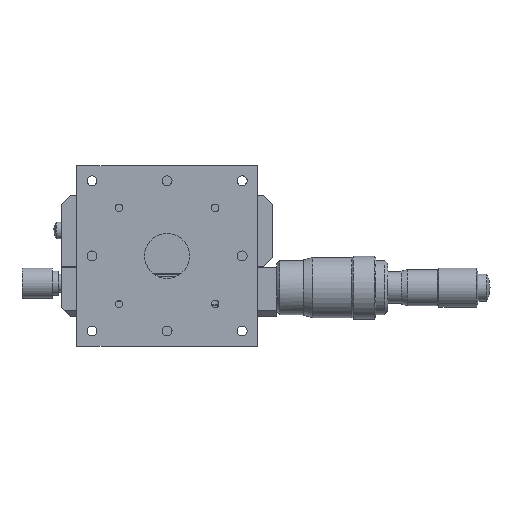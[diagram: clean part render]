
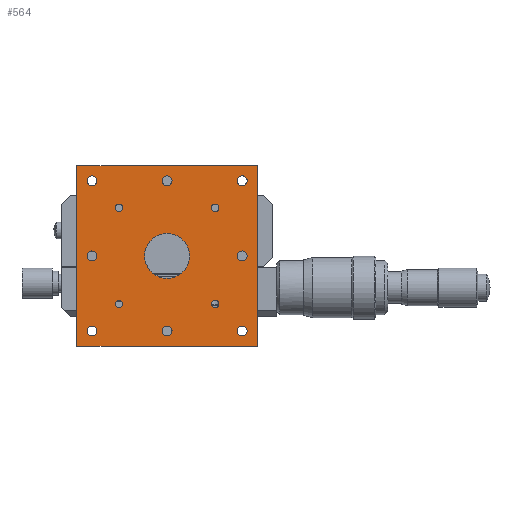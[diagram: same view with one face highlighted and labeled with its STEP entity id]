
A CAD part, top view. The second image highlights one B-rep face of the part: STEP entity #564.
In plain terms, the highlighted planar face has unit normal (0, 0, 1).
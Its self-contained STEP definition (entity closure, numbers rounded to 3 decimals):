
#564 = ADVANCED_FACE( '', ( #1199, #1200, #1201, #1202, #1203, #1204, #1205, #1206, #1207, #1208, #1209, #1210, #1211, #1212 ), #1213, .T. );
#1199 = FACE_BOUND( '', #1852, .T. );
#1200 = FACE_BOUND( '', #1853, .T. );
#1201 = FACE_BOUND( '', #1854, .T. );
#1202 = FACE_BOUND( '', #1855, .T. );
#1203 = FACE_BOUND( '', #1856, .T. );
#1204 = FACE_BOUND( '', #1857, .T. );
#1205 = FACE_BOUND( '', #1858, .T. );
#1206 = FACE_BOUND( '', #1859, .T. );
#1207 = FACE_BOUND( '', #1860, .T. );
#1208 = FACE_BOUND( '', #1861, .T. );
#1209 = FACE_BOUND( '', #1862, .T. );
#1210 = FACE_BOUND( '', #1863, .T. );
#1211 = FACE_OUTER_BOUND( '', #1864, .T. );
#1212 = FACE_BOUND( '', #1865, .T. );
#1213 = PLANE( '', #1866 );
#1852 = EDGE_LOOP( '', ( #3239 ) );
#1853 = EDGE_LOOP( '', ( #3240 ) );
#1854 = EDGE_LOOP( '', ( #3241 ) );
#1855 = EDGE_LOOP( '', ( #3242 ) );
#1856 = EDGE_LOOP( '', ( #3243 ) );
#1857 = EDGE_LOOP( '', ( #3244 ) );
#1858 = EDGE_LOOP( '', ( #3245 ) );
#1859 = EDGE_LOOP( '', ( #3246 ) );
#1860 = EDGE_LOOP( '', ( #3247 ) );
#1861 = EDGE_LOOP( '', ( #3248 ) );
#1862 = EDGE_LOOP( '', ( #3249 ) );
#1863 = EDGE_LOOP( '', ( #3250 ) );
#1864 = EDGE_LOOP( '', ( #3251, #3252, #3253, #3254 ) );
#1865 = EDGE_LOOP( '', ( #3255 ) );
#1866 = AXIS2_PLACEMENT_3D( '', #3256, #3257, #3258 );
#3239 = ORIENTED_EDGE( '', *, *, #3538, .F. );
#3240 = ORIENTED_EDGE( '', *, *, #3811, .F. );
#3241 = ORIENTED_EDGE( '', *, *, #3692, .F. );
#3242 = ORIENTED_EDGE( '', *, *, #3788, .F. );
#3243 = ORIENTED_EDGE( '', *, *, #3727, .F. );
#3244 = ORIENTED_EDGE( '', *, *, #3770, .F. );
#3245 = ORIENTED_EDGE( '', *, *, #3684, .F. );
#3246 = ORIENTED_EDGE( '', *, *, #3806, .F. );
#3247 = ORIENTED_EDGE( '', *, *, #3571, .F. );
#3248 = ORIENTED_EDGE( '', *, *, #3346, .F. );
#3249 = ORIENTED_EDGE( '', *, *, #3635, .F. );
#3250 = ORIENTED_EDGE( '', *, *, #3380, .F. );
#3251 = ORIENTED_EDGE( '', *, *, #3613, .T. );
#3252 = ORIENTED_EDGE( '', *, *, #3695, .F. );
#3253 = ORIENTED_EDGE( '', *, *, #3701, .F. );
#3254 = ORIENTED_EDGE( '', *, *, #3576, .F. );
#3255 = ORIENTED_EDGE( '', *, *, #3762, .T. );
#3256 = CARTESIAN_POINT( '', ( 0., 0., 40. ) );
#3257 = DIRECTION( '', ( 0., 0., 1. ) );
#3258 = DIRECTION( '', ( 1., 0., 0. ) );
#3346 = EDGE_CURVE( '', #3915, #3915, #3916, .T. );
#3380 = EDGE_CURVE( '', #3978, #3978, #3979, .T. );
#3538 = EDGE_CURVE( '', #4227, #4227, #4228, .T. );
#3571 = EDGE_CURVE( '', #4275, #4275, #4276, .T. );
#3576 = EDGE_CURVE( '', #4282, #4284, #4285, .T. );
#3613 = EDGE_CURVE( '', #4282, #4331, #4333, .T. );
#3635 = EDGE_CURVE( '', #4368, #4368, #4369, .T. );
#3684 = EDGE_CURVE( '', #4437, #4437, #4438, .T. );
#3692 = EDGE_CURVE( '', #4449, #4449, #4450, .T. );
#3695 = EDGE_CURVE( '', #4452, #4331, #4454, .T. );
#3701 = EDGE_CURVE( '', #4284, #4452, #4462, .T. );
#3727 = EDGE_CURVE( '', #4494, #4494, #4495, .T. );
#3762 = EDGE_CURVE( '', #4537, #4537, #4538, .T. );
#3770 = EDGE_CURVE( '', #4547, #4547, #4548, .T. );
#3788 = EDGE_CURVE( '', #4568, #4568, #4569, .T. );
#3806 = EDGE_CURVE( '', #4587, #4587, #4588, .T. );
#3811 = EDGE_CURVE( '', #4593, #4593, #4594, .T. );
#3915 = VERTEX_POINT( '', #4734 );
#3916 = CIRCLE( '', #4735, 1.65 );
#3978 = VERTEX_POINT( '', #4814 );
#3979 = CIRCLE( '', #4815, 1.65 );
#4227 = VERTEX_POINT( '', #5146 );
#4228 = CIRCLE( '', #5147, 1.25 );
#4275 = VERTEX_POINT( '', #5206 );
#4276 = CIRCLE( '', #5207, 1.65 );
#4282 = VERTEX_POINT( '', #5213 );
#4284 = VERTEX_POINT( '', #5216 );
#4285 = LINE( '', #5217, #5218 );
#4331 = VERTEX_POINT( '', #5283 );
#4333 = LINE( '', #5286, #5287 );
#4368 = VERTEX_POINT( '', #5332 );
#4369 = CIRCLE( '', #5333, 1.65 );
#4437 = VERTEX_POINT( '', #5423 );
#4438 = CIRCLE( '', #5424, 1.65 );
#4449 = VERTEX_POINT( '', #5437 );
#4450 = CIRCLE( '', #5438, 1.25 );
#4452 = VERTEX_POINT( '', #5440 );
#4454 = LINE( '', #5443, #5444 );
#4462 = LINE( '', #5452, #5453 );
#4494 = VERTEX_POINT( '', #5499 );
#4495 = CIRCLE( '', #5500, 1.65 );
#4537 = VERTEX_POINT( '', #5554 );
#4538 = CIRCLE( '', #5555, 7.5 );
#4547 = VERTEX_POINT( '', #5564 );
#4548 = CIRCLE( '', #5565, 1.65 );
#4568 = VERTEX_POINT( '', #5587 );
#4569 = CIRCLE( '', #5588, 1.25 );
#4587 = VERTEX_POINT( '', #5609 );
#4588 = CIRCLE( '', #5610, 1.65 );
#4593 = VERTEX_POINT( '', #5615 );
#4594 = CIRCLE( '', #5616, 1.25 );
#4734 = CARTESIAN_POINT( '', ( 25., -26.65, 40. ) );
#4735 = AXIS2_PLACEMENT_3D( '', #5688, #5689, #5690 );
#4814 = CARTESIAN_POINT( '', ( -25., -26.65, 40. ) );
#4815 = AXIS2_PLACEMENT_3D( '', #5744, #5745, #5746 );
#5146 = CARTESIAN_POINT( '', ( -16., 14.75, 40. ) );
#5147 = AXIS2_PLACEMENT_3D( '', #5932, #5933, #5934 );
#5206 = CARTESIAN_POINT( '', ( 25., -1.65, 40. ) );
#5207 = AXIS2_PLACEMENT_3D( '', #5974, #5975, #5976 );
#5213 = CARTESIAN_POINT( '', ( 30., 30., 40. ) );
#5216 = CARTESIAN_POINT( '', ( 30., -30., 40. ) );
#5217 = CARTESIAN_POINT( '', ( 30., 0., 40. ) );
#5218 = VECTOR( '', #5981, 1000. );
#5283 = CARTESIAN_POINT( '', ( -30., 30., 40. ) );
#5286 = CARTESIAN_POINT( '', ( 0., 30., 40. ) );
#5287 = VECTOR( '', #6011, 1000. );
#5332 = CARTESIAN_POINT( '', ( 0., -26.65, 40. ) );
#5333 = AXIS2_PLACEMENT_3D( '', #6040, #6041, #6042 );
#5423 = CARTESIAN_POINT( '', ( 0., 23.35, 40. ) );
#5424 = AXIS2_PLACEMENT_3D( '', #6089, #6090, #6091 );
#5437 = CARTESIAN_POINT( '', ( 16., -17.25, 40. ) );
#5438 = AXIS2_PLACEMENT_3D( '', #6103, #6104, #6105 );
#5440 = CARTESIAN_POINT( '', ( -30., -30., 40. ) );
#5443 = CARTESIAN_POINT( '', ( -30., 0., 40. ) );
#5444 = VECTOR( '', #6107, 1000. );
#5452 = CARTESIAN_POINT( '', ( 0., -30., 40. ) );
#5453 = VECTOR( '', #6114, 1000. );
#5499 = CARTESIAN_POINT( '', ( -25., -1.65, 40. ) );
#5500 = AXIS2_PLACEMENT_3D( '', #6132, #6133, #6134 );
#5554 = CARTESIAN_POINT( '', ( 0., 7.5, 40. ) );
#5555 = AXIS2_PLACEMENT_3D( '', #6159, #6160, #6161 );
#5564 = CARTESIAN_POINT( '', ( -25., 23.35, 40. ) );
#5565 = AXIS2_PLACEMENT_3D( '', #6168, #6169, #6170 );
#5587 = CARTESIAN_POINT( '', ( -16., -17.25, 40. ) );
#5588 = AXIS2_PLACEMENT_3D( '', #6182, #6183, #6184 );
#5609 = CARTESIAN_POINT( '', ( 25., 23.35, 40. ) );
#5610 = AXIS2_PLACEMENT_3D( '', #6194, #6195, #6196 );
#5615 = CARTESIAN_POINT( '', ( 16., 14.75, 40. ) );
#5616 = AXIS2_PLACEMENT_3D( '', #6197, #6198, #6199 );
#5688 = CARTESIAN_POINT( '', ( 25., -25., 40. ) );
#5689 = DIRECTION( '', ( 0., 0., 1. ) );
#5690 = DIRECTION( '', ( 0., -1., 0. ) );
#5744 = CARTESIAN_POINT( '', ( -25., -25., 40. ) );
#5745 = DIRECTION( '', ( 0., 0., 1. ) );
#5746 = DIRECTION( '', ( 0., -1., 0. ) );
#5932 = CARTESIAN_POINT( '', ( -16., 16., 40. ) );
#5933 = DIRECTION( '', ( 0., 0., 1. ) );
#5934 = DIRECTION( '', ( 0., -1., 0. ) );
#5974 = CARTESIAN_POINT( '', ( 25., 0., 40. ) );
#5975 = DIRECTION( '', ( 0., 0., 1. ) );
#5976 = DIRECTION( '', ( 0., -1., 0. ) );
#5981 = DIRECTION( '', ( 0., -1., 0. ) );
#6011 = DIRECTION( '', ( -1., 0., 0. ) );
#6040 = CARTESIAN_POINT( '', ( 0., -25., 40. ) );
#6041 = DIRECTION( '', ( 0., 0., 1. ) );
#6042 = DIRECTION( '', ( 0., -1., 0. ) );
#6089 = CARTESIAN_POINT( '', ( 0., 25., 40. ) );
#6090 = DIRECTION( '', ( 0., 0., 1. ) );
#6091 = DIRECTION( '', ( 0., -1., 0. ) );
#6103 = CARTESIAN_POINT( '', ( 16., -16., 40. ) );
#6104 = DIRECTION( '', ( 0., 0., 1. ) );
#6105 = DIRECTION( '', ( 0., -1., 0. ) );
#6107 = DIRECTION( '', ( 0., 1., 0. ) );
#6114 = DIRECTION( '', ( -1., 0., 0. ) );
#6132 = CARTESIAN_POINT( '', ( -25., 0., 40. ) );
#6133 = DIRECTION( '', ( 0., 0., 1. ) );
#6134 = DIRECTION( '', ( 0., -1., 0. ) );
#6159 = CARTESIAN_POINT( '', ( 0., 0., 40. ) );
#6160 = DIRECTION( '', ( 0., 0., -1. ) );
#6161 = DIRECTION( '', ( 0., 1., 0. ) );
#6168 = CARTESIAN_POINT( '', ( -25., 25., 40. ) );
#6169 = DIRECTION( '', ( 0., 0., 1. ) );
#6170 = DIRECTION( '', ( 0., -1., 0. ) );
#6182 = CARTESIAN_POINT( '', ( -16., -16., 40. ) );
#6183 = DIRECTION( '', ( 0., 0., 1. ) );
#6184 = DIRECTION( '', ( 0., -1., 0. ) );
#6194 = CARTESIAN_POINT( '', ( 25., 25., 40. ) );
#6195 = DIRECTION( '', ( 0., 0., 1. ) );
#6196 = DIRECTION( '', ( 0., -1., 0. ) );
#6197 = CARTESIAN_POINT( '', ( 16., 16., 40. ) );
#6198 = DIRECTION( '', ( 0., 0., 1. ) );
#6199 = DIRECTION( '', ( 0., -1., 0. ) );
